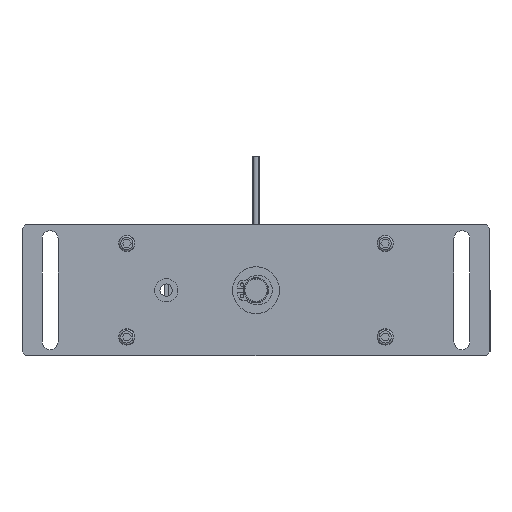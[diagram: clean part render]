
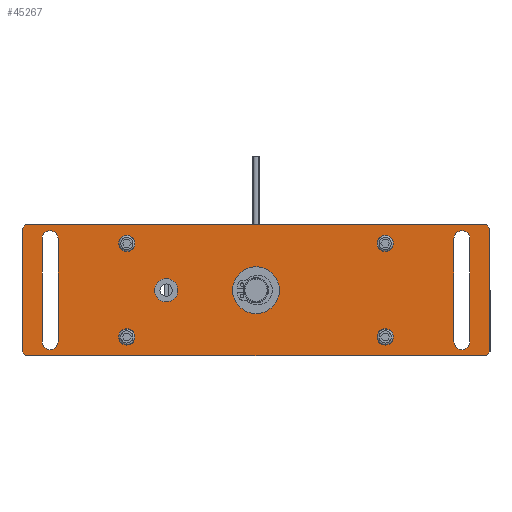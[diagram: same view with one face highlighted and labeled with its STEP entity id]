
A CAD part, front view. The second image highlights one B-rep face of the part: STEP entity #45267.
In plain terms, the highlighted planar face has unit normal (0, -1, 0) as drawn and (0, 0, 1) by its records, which use the part's own axes.
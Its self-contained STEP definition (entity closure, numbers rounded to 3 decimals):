
#1527=PLANE('',#59696);
#6163=LINE('',#86805,#10645);
#6169=LINE('',#86819,#10651);
#6173=LINE('',#86828,#10655);
#6175=LINE('',#86832,#10657);
#6187=LINE('',#86877,#10669);
#6188=LINE('',#86881,#10670);
#6189=LINE('',#86885,#10671);
#6190=LINE('',#86889,#10672);
#6191=LINE('',#86902,#10673);
#6192=LINE('',#86903,#10674);
#6193=LINE('',#86904,#10675);
#6194=LINE('',#86905,#10676);
#10645=VECTOR('',#72587,1000.);
#10651=VECTOR('',#72595,1000.);
#10655=VECTOR('',#72601,1000.);
#10657=VECTOR('',#72605,1000.);
#10669=VECTOR('',#72643,1000.);
#10670=VECTOR('',#72646,1000.);
#10671=VECTOR('',#72649,1000.);
#10672=VECTOR('',#72652,1000.);
#10673=VECTOR('',#72665,1000.);
#10674=VECTOR('',#72666,1000.);
#10675=VECTOR('',#72667,1000.);
#10676=VECTOR('',#72668,1000.);
#23879=ORIENTED_EDGE('',*,*,#30725,.F.);
#23880=ORIENTED_EDGE('',*,*,#30726,.F.);
#23881=ORIENTED_EDGE('',*,*,#30727,.F.);
#23882=ORIENTED_EDGE('',*,*,#30728,.F.);
#23883=ORIENTED_EDGE('',*,*,#30729,.F.);
#23884=ORIENTED_EDGE('',*,*,#30730,.F.);
#23885=ORIENTED_EDGE('',*,*,#30731,.F.);
#23886=ORIENTED_EDGE('',*,*,#30732,.F.);
#23887=ORIENTED_EDGE('',*,*,#30733,.T.);
#23888=ORIENTED_EDGE('',*,*,#30734,.T.);
#23889=ORIENTED_EDGE('',*,*,#30735,.T.);
#23890=ORIENTED_EDGE('',*,*,#30736,.T.);
#23891=ORIENTED_EDGE('',*,*,#30737,.T.);
#23892=ORIENTED_EDGE('',*,*,#30738,.T.);
#23893=ORIENTED_EDGE('',*,*,#30701,.T.);
#23894=ORIENTED_EDGE('',*,*,#30739,.T.);
#23895=ORIENTED_EDGE('',*,*,#30703,.T.);
#23896=ORIENTED_EDGE('',*,*,#30740,.T.);
#23897=ORIENTED_EDGE('',*,*,#30691,.T.);
#23898=ORIENTED_EDGE('',*,*,#30741,.T.);
#23899=ORIENTED_EDGE('',*,*,#30697,.T.);
#23900=ORIENTED_EDGE('',*,*,#30742,.T.);
#30691=EDGE_CURVE('',#35230,#35231,#6163,.T.);
#30697=EDGE_CURVE('',#35237,#35236,#6169,.T.);
#30701=EDGE_CURVE('',#35241,#35240,#6173,.T.);
#30703=EDGE_CURVE('',#35242,#35243,#6175,.T.);
#30725=EDGE_CURVE('',#35260,#35261,#37167,.T.);
#30726=EDGE_CURVE('',#35262,#35260,#6187,.T.);
#30727=EDGE_CURVE('',#35263,#35262,#37168,.T.);
#30728=EDGE_CURVE('',#35261,#35263,#6188,.T.);
#30729=EDGE_CURVE('',#35264,#35265,#37169,.T.);
#30730=EDGE_CURVE('',#35266,#35264,#6189,.T.);
#30731=EDGE_CURVE('',#35267,#35266,#37170,.T.);
#30732=EDGE_CURVE('',#35265,#35267,#6190,.T.);
#30733=EDGE_CURVE('',#35268,#35268,#37171,.T.);
#30734=EDGE_CURVE('',#35269,#35269,#37172,.T.);
#30735=EDGE_CURVE('',#35270,#35270,#37173,.T.);
#30736=EDGE_CURVE('',#35271,#35271,#37174,.T.);
#30737=EDGE_CURVE('',#35272,#35272,#37175,.T.);
#30738=EDGE_CURVE('',#35273,#35273,#37176,.T.);
#30739=EDGE_CURVE('',#35240,#35242,#6191,.F.);
#30740=EDGE_CURVE('',#35243,#35230,#6192,.F.);
#30741=EDGE_CURVE('',#35231,#35237,#6193,.F.);
#30742=EDGE_CURVE('',#35236,#35241,#6194,.F.);
#35230=VERTEX_POINT('',#86806);
#35231=VERTEX_POINT('',#86807);
#35236=VERTEX_POINT('',#86818);
#35237=VERTEX_POINT('',#86820);
#35240=VERTEX_POINT('',#86827);
#35241=VERTEX_POINT('',#86829);
#35242=VERTEX_POINT('',#86833);
#35243=VERTEX_POINT('',#86834);
#35260=VERTEX_POINT('',#86875);
#35261=VERTEX_POINT('',#86876);
#35262=VERTEX_POINT('',#86878);
#35263=VERTEX_POINT('',#86880);
#35264=VERTEX_POINT('',#86883);
#35265=VERTEX_POINT('',#86884);
#35266=VERTEX_POINT('',#86886);
#35267=VERTEX_POINT('',#86888);
#35268=VERTEX_POINT('',#86891);
#35269=VERTEX_POINT('',#86893);
#35270=VERTEX_POINT('',#86895);
#35271=VERTEX_POINT('',#86897);
#35272=VERTEX_POINT('',#86899);
#35273=VERTEX_POINT('',#86901);
#37167=CIRCLE('',#59697,4.25);
#37168=CIRCLE('',#59698,4.25);
#37169=CIRCLE('',#59699,4.25);
#37170=CIRCLE('',#59700,4.25);
#37171=CIRCLE('',#59701,6.25);
#37172=CIRCLE('',#59702,12.5);
#37173=CIRCLE('',#59703,4.35);
#37174=CIRCLE('',#59704,4.35);
#37175=CIRCLE('',#59705,4.35);
#37176=CIRCLE('',#59706,4.35);
#39527=EDGE_LOOP('',(#23879,#23880,#23881,#23882));
#39528=EDGE_LOOP('',(#23883,#23884,#23885,#23886));
#39529=EDGE_LOOP('',(#23887));
#39530=EDGE_LOOP('',(#23888));
#39531=EDGE_LOOP('',(#23889));
#39532=EDGE_LOOP('',(#23890));
#39533=EDGE_LOOP('',(#23891));
#39534=EDGE_LOOP('',(#23892));
#39535=EDGE_LOOP('',(#23893,#23894,#23895,#23896,#23897,#23898,#23899,#23900));
#41942=FACE_BOUND('',#39527,.T.);
#41943=FACE_BOUND('',#39528,.T.);
#41944=FACE_BOUND('',#39529,.T.);
#41945=FACE_BOUND('',#39530,.T.);
#41946=FACE_BOUND('',#39531,.T.);
#41947=FACE_BOUND('',#39532,.T.);
#41948=FACE_BOUND('',#39533,.T.);
#41949=FACE_BOUND('',#39534,.T.);
#41950=FACE_BOUND('',#39535,.T.);
#45267=ADVANCED_FACE('',(#41942,#41943,#41944,#41945,#41946,#41947,#41948,
#41949,#41950),#1527,.T.);
#59696=AXIS2_PLACEMENT_3D('',#86873,#72639,#72640);
#59697=AXIS2_PLACEMENT_3D('',#86874,#72641,#72642);
#59698=AXIS2_PLACEMENT_3D('',#86879,#72644,#72645);
#59699=AXIS2_PLACEMENT_3D('',#86882,#72647,#72648);
#59700=AXIS2_PLACEMENT_3D('',#86887,#72650,#72651);
#59701=AXIS2_PLACEMENT_3D('',#86890,#72653,#72654);
#59702=AXIS2_PLACEMENT_3D('',#86892,#72655,#72656);
#59703=AXIS2_PLACEMENT_3D('',#86894,#72657,#72658);
#59704=AXIS2_PLACEMENT_3D('',#86896,#72659,#72660);
#59705=AXIS2_PLACEMENT_3D('',#86898,#72661,#72662);
#59706=AXIS2_PLACEMENT_3D('',#86900,#72663,#72664);
#72587=DIRECTION('',(0.,-1.,0.));
#72595=DIRECTION('',(1.,0.,0.));
#72601=DIRECTION('',(0.,1.,0.));
#72605=DIRECTION('',(-1.,0.,0.));
#72639=DIRECTION('',(0.,0.,1.));
#72640=DIRECTION('',(1.,0.,0.));
#72641=DIRECTION('',(0.,0.,1.));
#72642=DIRECTION('',(0.,-1.,0.));
#72643=DIRECTION('',(0.,1.,0.));
#72644=DIRECTION('',(0.,0.,1.));
#72645=DIRECTION('',(-1.,0.,0.));
#72646=DIRECTION('',(0.,-1.,0.));
#72647=DIRECTION('',(0.,0.,1.));
#72648=DIRECTION('',(0.,-1.,0.));
#72649=DIRECTION('',(0.,1.,0.));
#72650=DIRECTION('',(0.,0.,1.));
#72651=DIRECTION('',(-1.,0.,0.));
#72652=DIRECTION('',(0.,-1.,0.));
#72653=DIRECTION('',(0.,0.,-1.));
#72654=DIRECTION('',(0.,-1.,0.));
#72655=DIRECTION('',(0.,0.,-1.));
#72656=DIRECTION('',(0.,-1.,0.));
#72657=DIRECTION('',(0.,0.,-1.));
#72658=DIRECTION('',(0.,-1.,0.));
#72659=DIRECTION('',(0.,0.,-1.));
#72660=DIRECTION('',(0.,-1.,0.));
#72661=DIRECTION('',(0.,0.,-1.));
#72662=DIRECTION('',(0.,-1.,0.));
#72663=DIRECTION('',(0.,0.,-1.));
#72664=DIRECTION('',(0.,-1.,0.));
#72665=DIRECTION('',(0.707,-0.707,0.));
#72666=DIRECTION('',(0.707,0.707,0.));
#72667=DIRECTION('',(-0.707,0.707,0.));
#72668=DIRECTION('',(-0.707,-0.707,0.));
#86805=CARTESIAN_POINT('',(-125.,35.,0.));
#86806=CARTESIAN_POINT('',(-125.,33.,0.));
#86807=CARTESIAN_POINT('',(-125.,-33.,0.));
#86818=CARTESIAN_POINT('',(123.,-35.,0.));
#86819=CARTESIAN_POINT('',(-125.,-35.,0.));
#86820=CARTESIAN_POINT('',(-123.,-35.,0.));
#86827=CARTESIAN_POINT('',(125.,33.,0.));
#86828=CARTESIAN_POINT('',(125.,-35.,0.));
#86829=CARTESIAN_POINT('',(125.,-33.,0.));
#86832=CARTESIAN_POINT('',(125.,35.,0.));
#86833=CARTESIAN_POINT('',(123.,35.,0.));
#86834=CARTESIAN_POINT('',(-123.,35.,0.));
#86873=CARTESIAN_POINT('',(-125.,-35.,0.));
#86874=CARTESIAN_POINT('',(110.,27.5,0.));
#86875=CARTESIAN_POINT('',(114.25,27.5,0.));
#86876=CARTESIAN_POINT('',(105.75,27.5,0.));
#86877=CARTESIAN_POINT('',(114.25,-27.5,0.));
#86878=CARTESIAN_POINT('',(114.25,-27.5,0.));
#86879=CARTESIAN_POINT('',(110.,-27.5,0.));
#86880=CARTESIAN_POINT('',(105.75,-27.5,0.));
#86881=CARTESIAN_POINT('',(105.75,27.5,0.));
#86882=CARTESIAN_POINT('',(-110.,27.5,0.));
#86883=CARTESIAN_POINT('',(-105.75,27.5,0.));
#86884=CARTESIAN_POINT('',(-114.25,27.5,0.));
#86885=CARTESIAN_POINT('',(-105.75,-27.5,0.));
#86886=CARTESIAN_POINT('',(-105.75,-27.5,0.));
#86887=CARTESIAN_POINT('',(-110.,-27.5,0.));
#86888=CARTESIAN_POINT('',(-114.25,-27.5,0.));
#86889=CARTESIAN_POINT('',(-114.25,27.5,0.));
#86890=CARTESIAN_POINT('',(-48.,0.,0.));
#86891=CARTESIAN_POINT('',(-48.,-6.25,0.));
#86892=CARTESIAN_POINT('',(0.,0.,0.));
#86893=CARTESIAN_POINT('',(0.,-12.5,0.));
#86894=CARTESIAN_POINT('',(-69.,-25.,0.));
#86895=CARTESIAN_POINT('',(-69.,-29.35,0.));
#86896=CARTESIAN_POINT('',(69.,-25.,0.));
#86897=CARTESIAN_POINT('',(69.,-29.35,0.));
#86898=CARTESIAN_POINT('',(69.,25.,0.));
#86899=CARTESIAN_POINT('',(69.,20.65,0.));
#86900=CARTESIAN_POINT('',(-69.,25.,0.));
#86901=CARTESIAN_POINT('',(-69.,20.65,0.));
#86902=CARTESIAN_POINT('',(34.,124.,0.));
#86903=CARTESIAN_POINT('',(-159.,-1.,0.));
#86904=CARTESIAN_POINT('',(-124.,-34.,0.));
#86905=CARTESIAN_POINT('',(-1.,-159.,0.));
